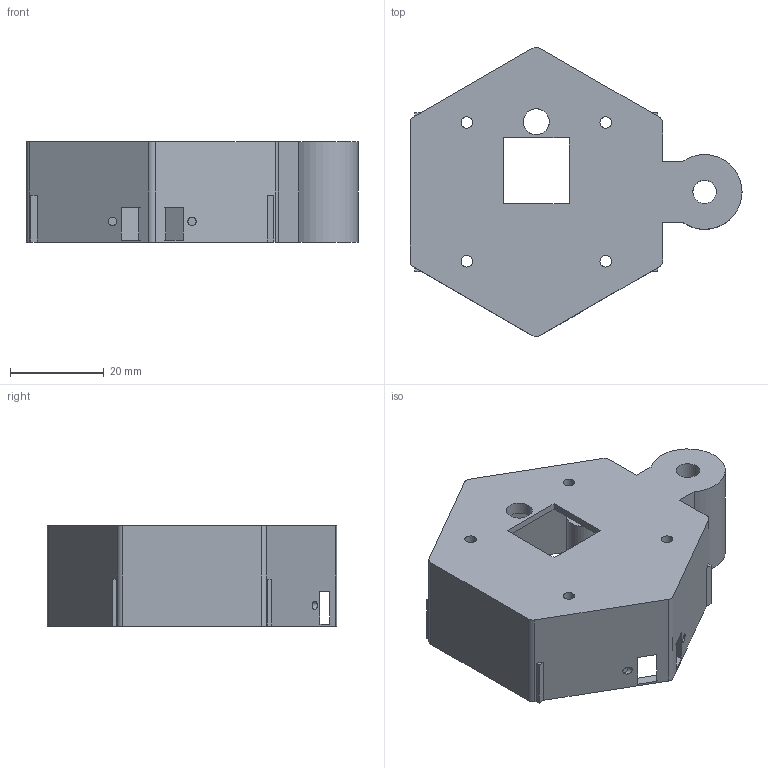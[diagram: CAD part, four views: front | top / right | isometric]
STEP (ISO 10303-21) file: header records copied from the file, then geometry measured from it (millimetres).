
FILE_DESCRIPTION(('Open CASCADE Model'),'2;1');
FILE_NAME('Open CASCADE Shape Model','2026-09-17T20:09:27',('Author'),( 'Open CASCADE'),'Open CASCADE STEP processor 7.7','Open CASCADE 7.7' ,'Unknown');
FILE_SCHEMA(('AUTOMOTIVE_DESIGN { 1 0 10303 214 1 1 1 1 }'));
Length unit declared in the file: millimetre
Products named in the file (1): Open CASCADE STEP translator 7.7 1
Bounding box: 71 x 61.92 x 21.4 mm (x, y, z)
Volume: 18878.5 mm3; surface area: 14836 mm2
Topology: 1 solids, 1 shells, 118 faces, 321 edges, 214 vertices
Faces by surface type: plane 91, cylinder 27
Full cylindrical faces by diameter (mm): 1.8 x2, 2.45 x4, 3.4 x8, 5 x1, 5.55 x1
Entity records: 7969 total; most frequent: CARTESIAN_POINT 1680, DIRECTION 1100, LINE 731, VECTOR 731, ORIENTED_EDGE 642, PCURVE 642, DEFINITIONAL_REPRESENTATION 642, EDGE_CURVE 321
